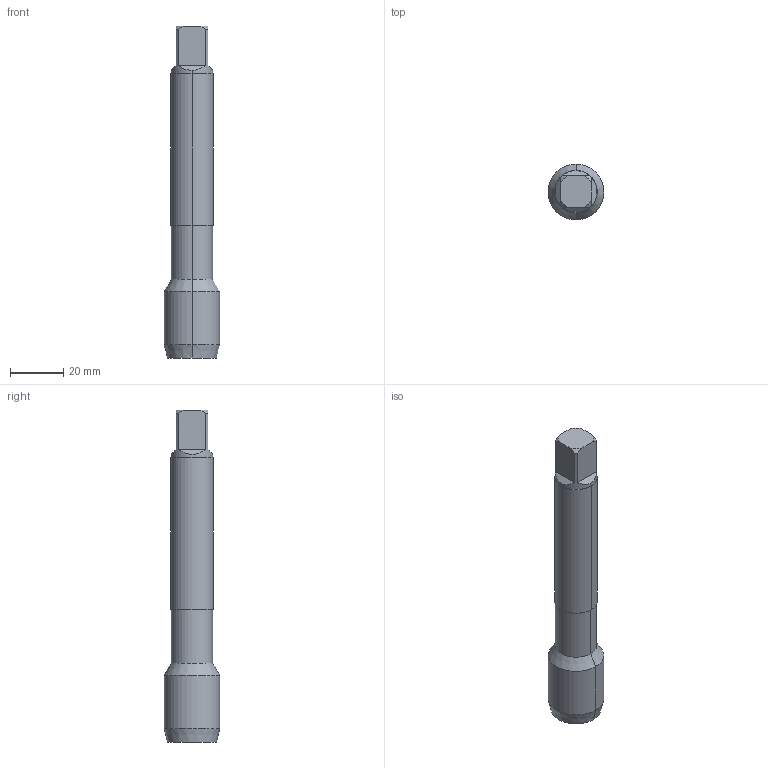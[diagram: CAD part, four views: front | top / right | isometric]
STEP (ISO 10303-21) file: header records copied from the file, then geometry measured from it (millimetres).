
FILE_DESCRIPTION (( 'STEP AP214' ), '1' );
FILE_NAME ('TC728560.STEP', '2020-03-10T05:13:50', ( 'USER' ), ( '' ), 'SwSTEP 2.0', 'SolidWorks 2018', '' );
FILE_SCHEMA (( 'AUTOMOTIVE_DESIGN' ));
Length unit declared in the file: millimetre
Products named in the file (1): TC728560
Bounding box: 20.95 x 20.95 x 125 mm (x, y, z)
Volume: 27705.3 mm3; surface area: 7774.1 mm2
Topology: 2 solids, 2 shells, 30 faces, 68 edges, 44 vertices
Faces by surface type: plane 14, cone 8, cylinder 8
Entity records: 1231 total; most frequent: CARTESIAN_POINT 189, DIRECTION 142, ORIENTED_EDGE 136, EDGE_CURVE 68, AXIS2_PLACEMENT_3D 57, VERTEX_POINT 44, UNCERTAINTY_MEASURE_WITH_UNIT 34, MECHANICAL_DESIGN_GEOMETRIC_PRESENTATION_REPRESENTATION 33
